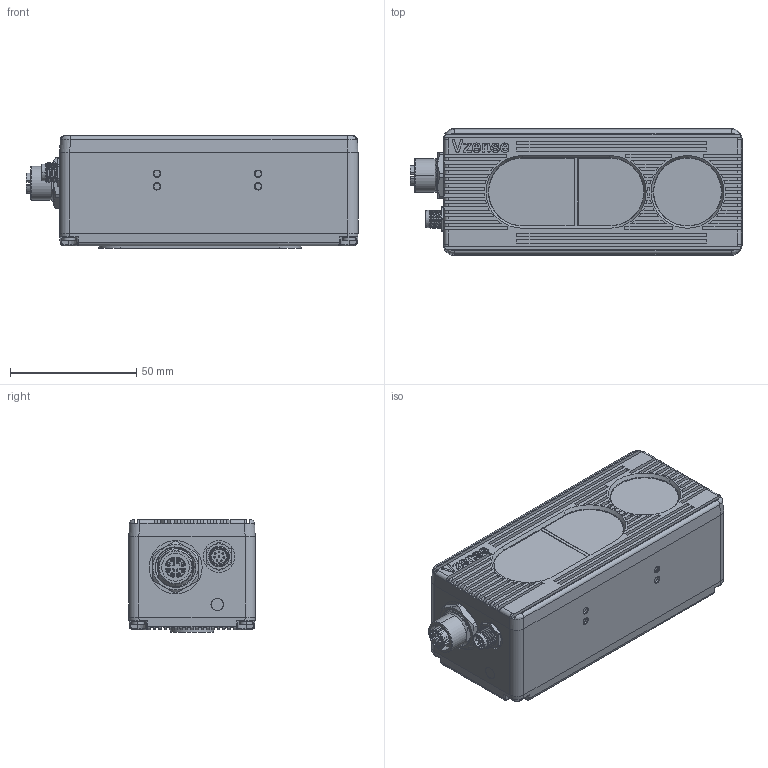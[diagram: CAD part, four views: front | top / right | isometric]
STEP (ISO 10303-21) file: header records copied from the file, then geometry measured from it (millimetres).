
FILE_DESCRIPTION((''),'2;1');
FILE_NAME('4ID_PART_DS87','2023-03-02T19:54:47',('Lincoln'),(''),'CREO PARAMETRIC BY PTC INC, 2018260','CREO PARAMETRIC BY PTC INC, 2018260','');
FILE_SCHEMA(('CONFIG_CONTROL_DESIGN','GEOMETRIC_VALIDATION_PROPERTIES_MIM'));
Products named in the file (1): 4ID_PART_DS87
Bounding box: 131.3 x 50 x 44.55 mm (x, y, z)
Volume: 250725.6 mm3; surface area: 34629.2 mm2
Topology: 1 solids, 9 shells, 1514 faces, 4116 edges, 2671 vertices
Faces by surface type: plane 536, cylinder 532, extrusion 168, cone 102, bspline 97, torus 62, sphere 17
Entity records: 91156 total; most frequent: CARTESIAN_POINT 40551, ORIENTED_EDGE 8166, DIRECTION 6480, PRESENTATION_STYLE_ASSIGNMENT 4380, STYLED_ITEM 4084, CURVE_STYLE 4083, EDGE_CURVE 4083, VERTEX_POINT 2671
